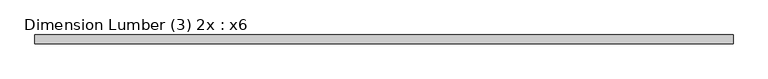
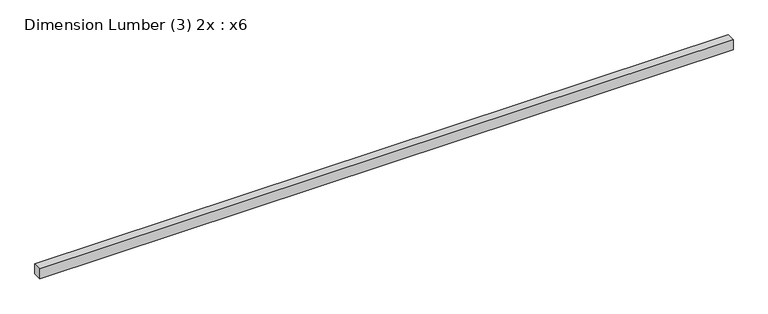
"""IFC4 building model written with IfcOpenShell, lengths in millimetres: beam geometry, Dimension Lumber (3) 2x : x6."""

from ifc_helpers import new_model, si_unit, frame, origin, place, context, project, spatial, polyline, outline, extrude, source, transform, mapped, element, save


def dimension_lumber_3_2x_x6_f16df4bf(model_context):
    return source(origin(), model_context, "Body", "SweptSolid", [
        extrude(outline(polyline([(4597.2476, 57.15), (4597.2476, -57.15), (-4546.7524, -57.15), (-4546.7524, 57.15), (4597.2476, 57.15)])), frame((0.0, 0.0, -69.85), z_axis=(0.0, 0.0, 1.0), x_axis=(1.0, 0.0, 0.0)), (0.0, 0.0, 1.0), 139.7),
    ])


if __name__ == "__main__":
    model = new_model("IFC4")
    model_context = context("Model", 3, world=origin())
    ifc_project = project(units=[si_unit("LENGTHUNIT", "METRE", prefix="MILLI")], contexts=[model_context])
    site = spatial("IfcSite", under=ifc_project)
    building = spatial("IfcBuilding", under=site)
    placement = place(None, origin())
    dimension_lumber_3_2x_x6_shape = dimension_lumber_3_2x_x6_f16df4bf(model_context)
    element("IfcBeam", 1, ObjectType="Dimension Lumber (3) 2x : x6", at=placement, inside=building, context=model_context, shape_type="MappedRepresentation", body=[
        mapped(dimension_lumber_3_2x_x6_shape, transform((0.0, 0.0, 0.0), x_axis=(1.0, 0.0, 0.0), y_axis=(0.0, 1.0, 0.0), z_axis=(0.0, 0.0, 1.0))),
    ])
    save(model, "model.ifc")
